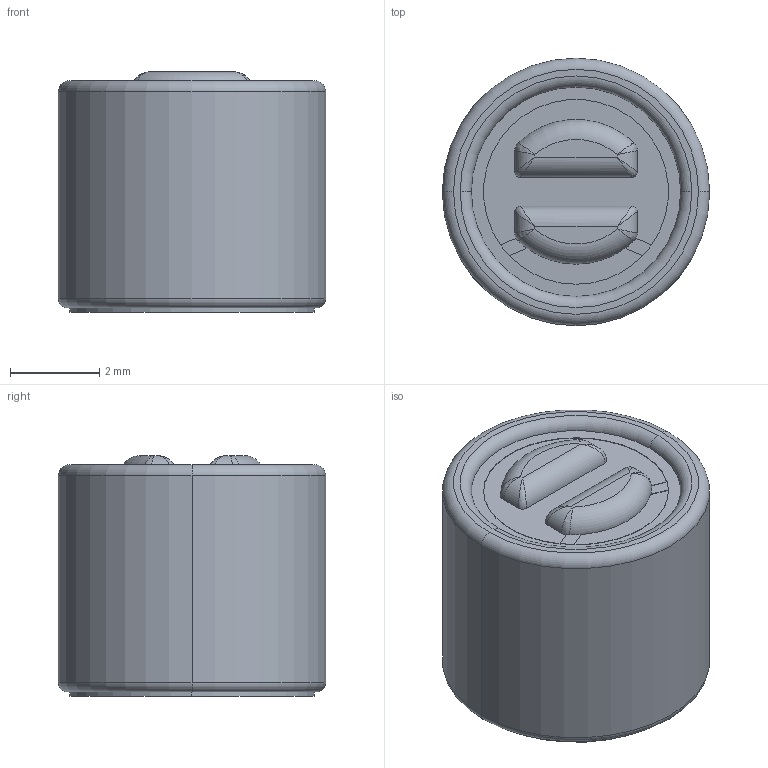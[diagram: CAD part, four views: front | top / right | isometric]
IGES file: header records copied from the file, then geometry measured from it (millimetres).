
Global section: file name: No Iges File Name specified; native system: Autodesk Inventor 2011; preprocessor: AutoDesk Inventor Iges Exporter R2011; author: Dunn; date: 20120111.083138; units: millimetre
Bounding box: 6 x 6 x 5.4 mm (x, y, z)
Volume: 143.7 mm3; surface area: 157.8 mm2
Topology: 1 solids, 2 shells, 52 faces, 122 edges, 70 vertices
Faces by surface type: plane 18, cylinder 10, bspline 10, torus 8, revolution 6
